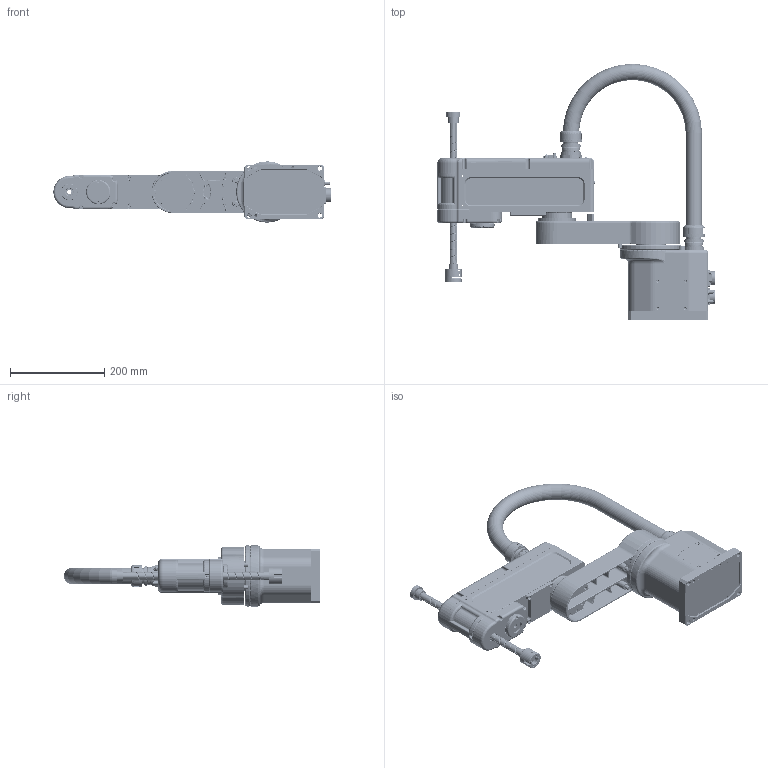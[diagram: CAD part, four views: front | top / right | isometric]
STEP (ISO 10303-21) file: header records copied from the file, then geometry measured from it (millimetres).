
FILE_DESCRIPTION (( 'STEP AP214' ), '1' );
FILE_NAME ('S400-00机器人.STEP', '2021-03-29T02:56:21', ( 'iCura' ), ( 'ICOS' ), 'SwSTEP 2.0', 'SolidWorks 2018', '' );
FILE_SCHEMA (( 'AUTOMOTIVE_DESIGN' ));
Length unit declared in the file: millimetre
Products named in the file (5): S400-3-00 J3粣; S400-4-00 J4粣; S400-2-00 J2粣_S400; S400-00机器人; S400-1-00 JI粣
Assembly tree (4 placements, depth 2):
  S400-00机器人
    S400-1-00 JI粣
    S400-2-00 J2粣_S400
    S400-3-00 J3粣
    S400-4-00 J4粣
Bounding box: 589.7 x 545.19 x 130 mm (x, y, z)
Surface area: 762729.4 mm2 (no closed solid volume)
Topology: 0 solids, 262 shells, 2981 faces, 9553 edges, 6602 vertices
Faces by surface type: cylinder 1368, plane 763, cone 519, torus 174, bspline 149, sphere 8
Entity records: 162198 total; most frequent: CARTESIAN_POINT 45762, DIRECTION 18392, ORIENTED_EDGE 15642, EDGE_CURVE 9444, AXIS2_PLACEMENT_3D 7247, VERTEX_POINT 6600, CIRCLE 4408, LINE 3898
